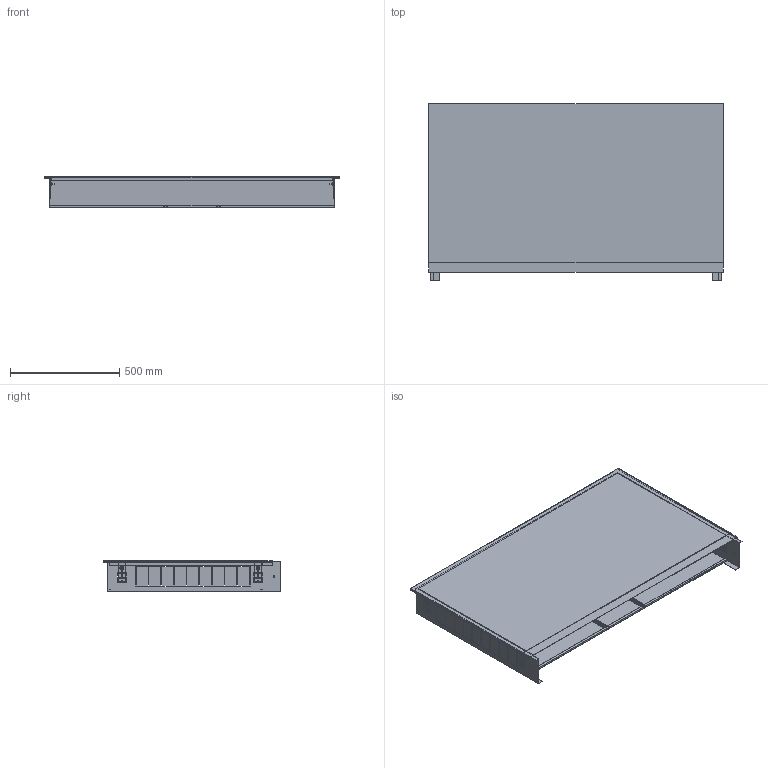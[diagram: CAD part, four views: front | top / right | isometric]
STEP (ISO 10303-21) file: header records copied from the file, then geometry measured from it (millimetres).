
FILE_DESCRIPTION(('STEP AP203'), '1');
FILE_NAME('VTc.540.H.07', '', ('UNSPECIFIED'), ('UNSPECIFIED'), 'C3D Converter', 'C3D Toolkit', '');
FILE_SCHEMA(('CONFIG_CONTROL_DESIGN'));
Length unit declared in the file: millimetre
Products named in the file (1): ВР.301442.011.000 СБ
Bounding box: 1345.6 x 808.3 x 141.3 mm (x, y, z)
Volume: 2736959.8 mm3; surface area: 5150159.5 mm2
Topology: 1 solids, 1 shells, 620 faces, 1750 edges, 1134 vertices
Faces by surface type: plane 514, cone 60, cylinder 42, sphere 4
Full cylindrical faces by diameter (mm): 6 x8, 6.4 x4, 7 x2, 14 x4, 18 x4
Entity records: 21676 total; most frequent: CARTESIAN_POINT 5699, ORIENTED_EDGE 3384, DIRECTION 2998, EDGE_CURVE 1692, LINE 1420, VECTOR 1420, VERTEX_POINT 1122, EDGE_LOOP 810
